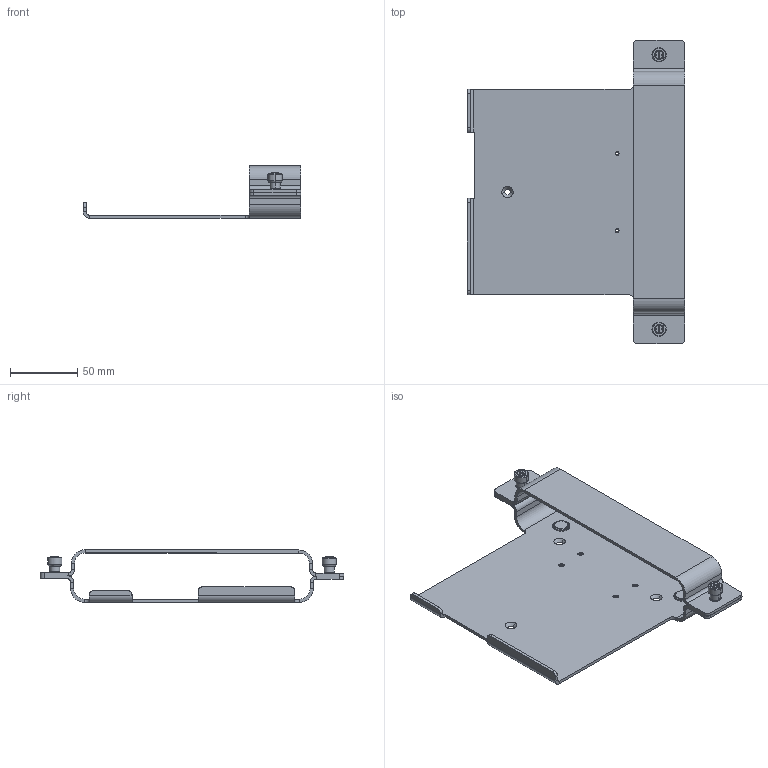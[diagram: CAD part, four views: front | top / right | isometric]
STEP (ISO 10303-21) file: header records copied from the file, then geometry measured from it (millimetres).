
FILE_DESCRIPTION((''),'2;1');
FILE_NAME('CU_USB-X-SERIES-WALL_MOUNT','2010-08-31T',('dkendric'),(''),'PRO/ENGINEER BY PARAMETRIC TECHNOLOGY CORPORATION, 2006510','PRO/ENGINEER BY PARAMETRIC TECHNOLOGY CORPORATION, 2006510','');
FILE_SCHEMA(('CONFIG_CONTROL_DESIGN'));
Length unit declared in the file: inch
Products named in the file (1): CU_USB-X-SERIES-WALL_MOUNT
Bounding box: 161.29 x 225.09 x 38.89 mm (x, y, z)
Volume: 90889.1 mm3; surface area: 78163.4 mm2
Topology: 1 solids, 1 shells, 383 faces, 880 edges, 525 vertices
Faces by surface type: plane 145, cylinder 124, cone 78, torus 36
Entity records: 10962 total; most frequent: DIRECTION 2017, CARTESIAN_POINT 2009, ORIENTED_EDGE 1752, EDGE_CURVE 876, AXIS2_PLACEMENT_3D 782, VERTEX_POINT 525, VECTOR 453, LINE 453
